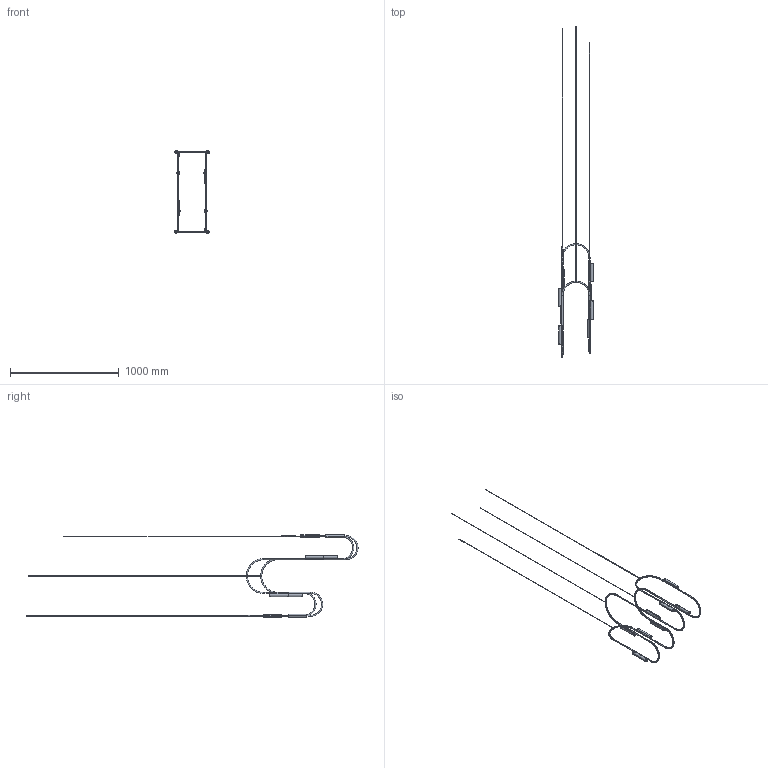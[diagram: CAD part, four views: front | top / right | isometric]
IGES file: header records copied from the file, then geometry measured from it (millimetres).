
Start section: SolidWorks IGES file using analytic representation for surfaces
Global section: file name: C:\Users\Joandita\Dropbox\Rakumba Industrial Design\PRODUCT\2 DEVELOPMENT\POP\CAD\LightWeight CAD\Pop - Pendant Loop B.IGS; native system: SolidWorks 2017; preprocessor: SolidWorks 2017; author: Joandita; date: 240408.155038; units: millimetre
Bounding box: 318.1 x 3047.42 x 758.88 mm (x, y, z)
Surface area: 748927 mm2 (no closed solid volume)
Topology: 0 solids, 0 shells, 828 faces, 12148 edges, 12148 vertices
Faces by surface type: bspline 432, revolution 396
